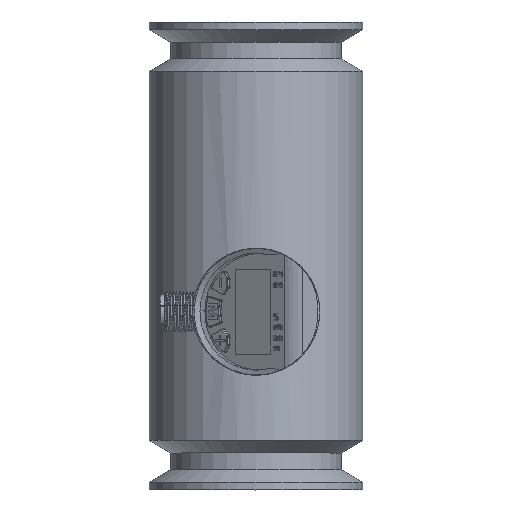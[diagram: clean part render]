
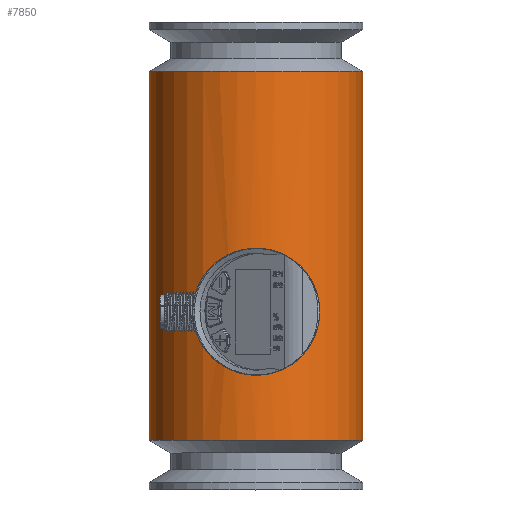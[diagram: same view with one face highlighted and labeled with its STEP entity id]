
A CAD part, top view. The second image highlights one B-rep face of the part: STEP entity #7850.
In plain terms, the highlighted cylindrical face has radius 32 mm (diameter 64 mm), a full revolution.
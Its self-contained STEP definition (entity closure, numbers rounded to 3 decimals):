
#6065=CYLINDRICAL_SURFACE('',#23355,32.);
#6874=B_SPLINE_CURVE_WITH_KNOTS('',3,(#43925,#43926,#43927,#43928),
 .UNSPECIFIED.,.F.,.F.,(4,4),(0.,1.),.UNSPECIFIED.);
#6875=B_SPLINE_CURVE_WITH_KNOTS('',3,(#43930,#43931,#43932,#43933,#43934,
#43935),.UNSPECIFIED.,.F.,.F.,(4,2,4),(0.,0.5,1.),.UNSPECIFIED.);
#6876=B_SPLINE_CURVE_WITH_KNOTS('',3,(#43937,#43938,#43939,#43940),
 .UNSPECIFIED.,.F.,.F.,(4,4),(0.,1.),.UNSPECIFIED.);
#6877=B_SPLINE_CURVE_WITH_KNOTS('',3,(#43941,#43942,#43943,#43944),
 .UNSPECIFIED.,.F.,.F.,(4,4),(0.,1.),.UNSPECIFIED.);
#6878=B_SPLINE_CURVE_WITH_KNOTS('',3,(#43946,#43947,#43948,#43949,#43950,
#43951),.UNSPECIFIED.,.F.,.F.,(4,2,4),(0.,0.5,1.),.UNSPECIFIED.);
#6879=B_SPLINE_CURVE_WITH_KNOTS('',3,(#43953,#43954,#43955,#43956),
 .UNSPECIFIED.,.F.,.F.,(4,4),(0.,1.),.UNSPECIFIED.);
#7850=ADVANCED_FACE('',(#8727,#8728,#8729),#6065,.T.);
#8727=FACE_BOUND('',#9968,.T.);
#8728=FACE_BOUND('',#9969,.T.);
#8729=FACE_BOUND('',#9970,.T.);
#9968=EDGE_LOOP('',(#15329));
#9969=EDGE_LOOP('',(#15330));
#9970=EDGE_LOOP('',(#15331,#15332,#15333,#15334,#15335,#15336,#15337,#15338));
#10664=CIRCLE('',#23353,32.);
#10665=CIRCLE('',#23354,32.);
#15329=ORIENTED_EDGE('',*,*,#19567,.T.);
#15330=ORIENTED_EDGE('',*,*,#19568,.T.);
#15331=ORIENTED_EDGE('',*,*,#19565,.T.);
#15332=ORIENTED_EDGE('',*,*,#19569,.T.);
#15333=ORIENTED_EDGE('',*,*,#19570,.T.);
#15334=ORIENTED_EDGE('',*,*,#19571,.T.);
#15335=ORIENTED_EDGE('',*,*,#19563,.T.);
#15336=ORIENTED_EDGE('',*,*,#19572,.T.);
#15337=ORIENTED_EDGE('',*,*,#19573,.T.);
#15338=ORIENTED_EDGE('',*,*,#19574,.T.);
#17172=VERTEX_POINT('',#43913);
#17173=VERTEX_POINT('',#43914);
#17174=VERTEX_POINT('',#43916);
#17175=VERTEX_POINT('',#43918);
#17176=VERTEX_POINT('',#43922);
#17177=VERTEX_POINT('',#43924);
#17178=VERTEX_POINT('',#43929);
#17179=VERTEX_POINT('',#43936);
#17180=VERTEX_POINT('',#43945);
#17181=VERTEX_POINT('',#43952);
#19563=EDGE_CURVE('',#17172,#17173,#20688,.T.);
#19565=EDGE_CURVE('',#17175,#17174,#20689,.T.);
#19567=EDGE_CURVE('',#17176,#17176,#10664,.T.);
#19568=EDGE_CURVE('',#17177,#17177,#10665,.T.);
#19569=EDGE_CURVE('',#17174,#17178,#6874,.T.);
#19570=EDGE_CURVE('',#17178,#17179,#6875,.T.);
#19571=EDGE_CURVE('',#17179,#17172,#6876,.T.);
#19572=EDGE_CURVE('',#17173,#17180,#6877,.T.);
#19573=EDGE_CURVE('',#17180,#17181,#6878,.T.);
#19574=EDGE_CURVE('',#17181,#17175,#6879,.T.);
#20688=LINE('',#43912,#21884);
#20689=LINE('',#43917,#21885);
#21884=VECTOR('',#27510,1.);
#21885=VECTOR('',#27513,1.);
#23353=AXIS2_PLACEMENT_3D('',#43921,#27518,#27519);
#23354=AXIS2_PLACEMENT_3D('',#43923,#27520,#27521);
#23355=AXIS2_PLACEMENT_3D('',#43957,#27522,#27523);
#27510=DIRECTION('',(0.,-1.,0.));
#27513=DIRECTION('',(0.,1.,0.));
#27518=DIRECTION('',(0.,1.,0.));
#27519=DIRECTION('',(-1.,0.,0.));
#27520=DIRECTION('',(0.,-1.,0.));
#27521=DIRECTION('',(-1.,0.,0.));
#27522=DIRECTION('',(0.,1.,0.));
#27523=DIRECTION('',(1.,0.,0.));
#43912=CARTESIAN_POINT('',(33.422,-76.6,-94.224));
#43913=CARTESIAN_POINT('',(33.422,45.414,-94.224));
#43914=CARTESIAN_POINT('',(33.422,27.386,-94.224));
#43916=CARTESIAN_POINT('',(17.547,45.386,-94.224));
#43917=CARTESIAN_POINT('',(17.547,-76.6,-94.224));
#43918=CARTESIAN_POINT('',(17.547,27.414,-94.224));
#43921=CARTESIAN_POINT('',(25.484,-1.847,-125.224));
#43922=CARTESIAN_POINT('',(-6.516,-1.847,-125.224));
#43923=CARTESIAN_POINT('',(25.484,108.647,-125.224));
#43924=CARTESIAN_POINT('',(-6.516,108.647,-125.224));
#43925=CARTESIAN_POINT('',(17.547,45.386,-94.224));
#43926=CARTESIAN_POINT('',(18.218,46.209,-94.053));
#43927=CARTESIAN_POINT('',(18.98,46.935,-93.88));
#43928=CARTESIAN_POINT('',(19.85,47.55,-93.724));
#43929=CARTESIAN_POINT('',(19.85,47.55,-93.724));
#43930=CARTESIAN_POINT('',(19.85,47.55,-93.724));
#43931=CARTESIAN_POINT('',(21.589,48.432,-93.413));
#43932=CARTESIAN_POINT('',(23.534,48.897,-93.225));
#43933=CARTESIAN_POINT('',(27.427,48.903,-93.224));
#43934=CARTESIAN_POINT('',(29.377,48.443,-93.413));
#43935=CARTESIAN_POINT('',(31.119,47.566,-93.724));
#43936=CARTESIAN_POINT('',(31.119,47.566,-93.724));
#43937=CARTESIAN_POINT('',(31.119,47.566,-93.724));
#43938=CARTESIAN_POINT('',(31.988,46.954,-93.88));
#43939=CARTESIAN_POINT('',(32.75,46.233,-94.052));
#43940=CARTESIAN_POINT('',(33.422,45.414,-94.224));
#43941=CARTESIAN_POINT('',(33.422,27.386,-94.224));
#43942=CARTESIAN_POINT('',(32.75,26.567,-94.052));
#43943=CARTESIAN_POINT('',(31.988,25.846,-93.88));
#43944=CARTESIAN_POINT('',(31.119,25.234,-93.724));
#43945=CARTESIAN_POINT('',(31.119,25.234,-93.724));
#43946=CARTESIAN_POINT('',(31.119,25.234,-93.724));
#43947=CARTESIAN_POINT('',(29.377,24.358,-93.413));
#43948=CARTESIAN_POINT('',(27.431,23.898,-93.224));
#43949=CARTESIAN_POINT('',(23.538,23.902,-93.224));
#43950=CARTESIAN_POINT('',(21.589,24.368,-93.413));
#43951=CARTESIAN_POINT('',(19.85,25.25,-93.724));
#43952=CARTESIAN_POINT('',(19.85,25.25,-93.724));
#43953=CARTESIAN_POINT('',(19.85,25.25,-93.724));
#43954=CARTESIAN_POINT('',(18.98,25.865,-93.88));
#43955=CARTESIAN_POINT('',(18.218,26.591,-94.053));
#43956=CARTESIAN_POINT('',(17.547,27.414,-94.224));
#43957=CARTESIAN_POINT('',(25.484,-76.6,-125.224));
